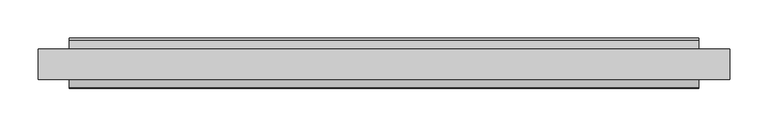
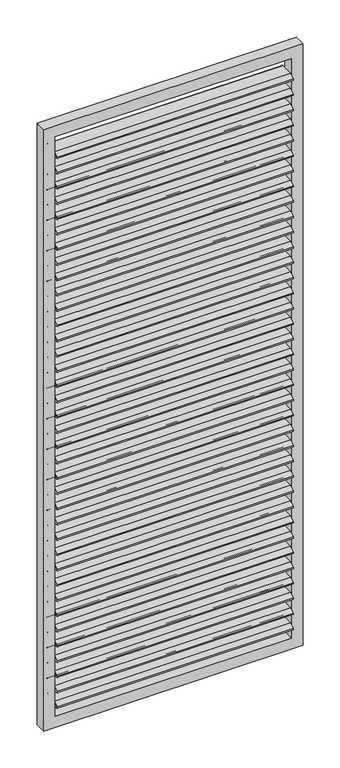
"""IFC4 building model written with IfcOpenShell, lengths in millimetres: proxy geometry."""

from ifc_helpers import new_model, si_unit, point, frame, frame_2d, origin, place, context, project, spatial, polyline, circle_curve, trimmed, segment, composite_curve, outline, extrude, source, transform, mapped, element, save


def generic_models_7d814d77(model_context):
    return source(origin(), model_context, "Body", "SweptSolid", [
        extrude(outline(composite_curve([segment(trimmed(circle_curve(frame_2d((30.8660408, 2150.5314678)), 3.0), [point((30.8136836, 2153.5310109))], [point((32.5436195, 2148.0443551))], False, "CARTESIAN"), True, "CONTINUOUS"), segment(polyline([(32.5436195, 2148.0443551), (17.3218392, 2137.7771346)]), True, "CONTINUOUS"), segment(trimmed(circle_curve(frame_2d((15.6442605, 2140.2642473)), 3.0), [point((17.3218392, 2137.7771346))], [point((15.6966177, 2137.2647043))], False, "CARTESIAN"), True, "CONTINUOUS"), segment(polyline([(15.6966177, 2137.2647043), (-28.3625539, 2136.4956486)]), True, "CONTINUOUS"), segment(trimmed(circle_curve(frame_2d((-28.4149111, 2139.4951916)), 3.0), [point((-28.3625539, 2136.4956486))], [point((-30.0924898, 2141.9823044))], False, "CARTESIAN"), True, "CONTINUOUS"), segment(polyline([(-30.0924898, 2141.9823044), (-14.1339931, 2152.7464463), (30.8136836, 2153.5310109)]), True, "CONTINUOUS")], self_intersect=False)), frame((-410.0, 0.0, 0.0), z_axis=(1.0, 0.0, 0.0), x_axis=(0.0, 1.0, 0.0)), (0.0, 0.0, 1.0), 820.0),
        extrude(outline(composite_curve([segment(trimmed(circle_curve(frame_2d((30.8660408, 2094.5594695)), 3.0), [point((30.8136836, 2097.5590126))], [point((32.5436195, 2092.0723568))], False, "CARTESIAN"), True, "CONTINUOUS"), segment(polyline([(32.5436195, 2092.0723568), (17.3218392, 2081.8051364)]), True, "CONTINUOUS"), segment(trimmed(circle_curve(frame_2d((15.6442605, 2084.2922491)), 3.0), [point((17.3218392, 2081.8051364))], [point((15.6966177, 2081.292706))], False, "CARTESIAN"), True, "CONTINUOUS"), segment(polyline([(15.6966177, 2081.292706), (-28.3625539, 2080.5236503)]), True, "CONTINUOUS"), segment(trimmed(circle_curve(frame_2d((-28.4149111, 2083.5231934)), 3.0), [point((-28.3625539, 2080.5236503))], [point((-30.0924898, 2086.0103061))], False, "CARTESIAN"), True, "CONTINUOUS"), segment(polyline([(-30.0924898, 2086.0103061), (-14.1339931, 2096.774448), (30.8136836, 2097.5590126)]), True, "CONTINUOUS")], self_intersect=False)), frame((-410.0, 0.0, 0.0), z_axis=(1.0, 0.0, 0.0), x_axis=(0.0, 1.0, 0.0)), (0.0, 0.0, 1.0), 820.0),
        extrude(outline(composite_curve([segment(trimmed(circle_curve(frame_2d((30.8660408, 2038.5874713)), 3.0), [point((30.8136836, 2041.5870144))], [point((32.5436195, 2036.1003586))], False, "CARTESIAN"), True, "CONTINUOUS"), segment(polyline([(32.5436195, 2036.1003586), (17.3218392, 2025.8331381)]), True, "CONTINUOUS"), segment(trimmed(circle_curve(frame_2d((15.6442605, 2028.3202508)), 3.0), [point((17.3218392, 2025.8331381))], [point((15.6966177, 2025.3207077))], False, "CARTESIAN"), True, "CONTINUOUS"), segment(polyline([(15.6966177, 2025.3207077), (-28.3625539, 2024.551652)]), True, "CONTINUOUS"), segment(trimmed(circle_curve(frame_2d((-28.4149111, 2027.5511951)), 3.0), [point((-28.3625539, 2024.551652))], [point((-30.0924898, 2030.0383078))], False, "CARTESIAN"), True, "CONTINUOUS"), segment(polyline([(-30.0924898, 2030.0383078), (-14.1339931, 2040.8024497), (30.8136836, 2041.5870144)]), True, "CONTINUOUS")], self_intersect=False)), frame((-410.0, 0.0, 0.0), z_axis=(1.0, 0.0, 0.0), x_axis=(0.0, 1.0, 0.0)), (0.0, 0.0, 1.0), 820.0),
        extrude(outline(composite_curve([segment(trimmed(circle_curve(frame_2d((30.8660408, 1982.615473)), 3.0), [point((30.8136836, 1985.6150161))], [point((32.5436195, 1980.1283603))], False, "CARTESIAN"), True, "CONTINUOUS"), segment(polyline([(32.5436195, 1980.1283603), (17.3218392, 1969.8611398)]), True, "CONTINUOUS"), segment(trimmed(circle_curve(frame_2d((15.6442605, 1972.3482526)), 3.0), [point((17.3218392, 1969.8611398))], [point((15.6966177, 1969.3487095))], False, "CARTESIAN"), True, "CONTINUOUS"), segment(polyline([(15.6966177, 1969.3487095), (-28.3625539, 1968.5796538)]), True, "CONTINUOUS"), segment(trimmed(circle_curve(frame_2d((-28.4149111, 1971.5791969)), 3.0), [point((-28.3625539, 1968.5796538))], [point((-30.0924898, 1974.0663096))], False, "CARTESIAN"), True, "CONTINUOUS"), segment(polyline([(-30.0924898, 1974.0663096), (-14.1339931, 1984.8304515), (30.8136836, 1985.6150161)]), True, "CONTINUOUS")], self_intersect=False)), frame((-410.0, 0.0, 0.0), z_axis=(1.0, 0.0, 0.0), x_axis=(0.0, 1.0, 0.0)), (0.0, 0.0, 1.0), 820.0),
        extrude(outline(composite_curve([segment(trimmed(circle_curve(frame_2d((30.8660408, 1926.6434747)), 3.0), [point((30.8136836, 1929.6430178))], [point((32.5436195, 1924.156362))], False, "CARTESIAN"), True, "CONTINUOUS"), segment(polyline([(32.5436195, 1924.156362), (17.3218392, 1913.8891416)]), True, "CONTINUOUS"), segment(trimmed(circle_curve(frame_2d((15.6442605, 1916.3762543)), 3.0), [point((17.3218392, 1913.8891416))], [point((15.6966177, 1913.3767112))], False, "CARTESIAN"), True, "CONTINUOUS"), segment(polyline([(15.6966177, 1913.3767112), (-28.3625539, 1912.6076555)]), True, "CONTINUOUS"), segment(trimmed(circle_curve(frame_2d((-28.4149111, 1915.6071986)), 3.0), [point((-28.3625539, 1912.6076555))], [point((-30.0924898, 1918.0943113))], False, "CARTESIAN"), True, "CONTINUOUS"), segment(polyline([(-30.0924898, 1918.0943113), (-14.1339931, 1928.8584532), (30.8136836, 1929.6430178)]), True, "CONTINUOUS")], self_intersect=False)), frame((-410.0, 0.0, 0.0), z_axis=(1.0, 0.0, 0.0), x_axis=(0.0, 1.0, 0.0)), (0.0, 0.0, 1.0), 820.0),
        extrude(outline(composite_curve([segment(trimmed(circle_curve(frame_2d((30.8660408, 1870.6714765)), 3.0), [point((30.8136836, 1873.6710196))], [point((32.5436195, 1868.1843638))], False, "CARTESIAN"), True, "CONTINUOUS"), segment(polyline([(32.5436195, 1868.1843638), (17.3218392, 1857.9171433)]), True, "CONTINUOUS"), segment(trimmed(circle_curve(frame_2d((15.6442605, 1860.404256)), 3.0), [point((17.3218392, 1857.9171433))], [point((15.6966177, 1857.404713))], False, "CARTESIAN"), True, "CONTINUOUS"), segment(polyline([(15.6966177, 1857.404713), (-28.3625539, 1856.6356573)]), True, "CONTINUOUS"), segment(trimmed(circle_curve(frame_2d((-28.4149111, 1859.6352003)), 3.0), [point((-28.3625539, 1856.6356573))], [point((-30.0924898, 1862.1223131))], False, "CARTESIAN"), True, "CONTINUOUS"), segment(polyline([(-30.0924898, 1862.1223131), (-14.1339931, 1872.886455), (30.8136836, 1873.6710196)]), True, "CONTINUOUS")], self_intersect=False)), frame((-410.0, 0.0, 0.0), z_axis=(1.0, 0.0, 0.0), x_axis=(0.0, 1.0, 0.0)), (0.0, 0.0, 1.0), 820.0),
        extrude(outline(composite_curve([segment(trimmed(circle_curve(frame_2d((30.8660408, 1814.6994782)), 3.0), [point((30.8136836, 1817.6990213))], [point((32.5436195, 1812.2123655))], False, "CARTESIAN"), True, "CONTINUOUS"), segment(polyline([(32.5436195, 1812.2123655), (17.3218392, 1801.9451451)]), True, "CONTINUOUS"), segment(trimmed(circle_curve(frame_2d((15.6442605, 1804.4322578)), 3.0), [point((17.3218392, 1801.9451451))], [point((15.6966177, 1801.4327147))], False, "CARTESIAN"), True, "CONTINUOUS"), segment(polyline([(15.6966177, 1801.4327147), (-28.3625539, 1800.663659)]), True, "CONTINUOUS"), segment(trimmed(circle_curve(frame_2d((-28.4149111, 1803.6632021)), 3.0), [point((-28.3625539, 1800.663659))], [point((-30.0924898, 1806.1503148))], False, "CARTESIAN"), True, "CONTINUOUS"), segment(polyline([(-30.0924898, 1806.1503148), (-14.1339931, 1816.9144567), (30.8136836, 1817.6990213)]), True, "CONTINUOUS")], self_intersect=False)), frame((-410.0, 0.0, 0.0), z_axis=(1.0, 0.0, 0.0), x_axis=(0.0, 1.0, 0.0)), (0.0, 0.0, 1.0), 820.0),
        extrude(outline(composite_curve([segment(trimmed(circle_curve(frame_2d((30.8660408, 1758.72748)), 3.0), [point((30.8136836, 1761.727023))], [point((32.5436195, 1756.2403672))], False, "CARTESIAN"), True, "CONTINUOUS"), segment(polyline([(32.5436195, 1756.2403672), (17.3218392, 1745.9731468)]), True, "CONTINUOUS"), segment(trimmed(circle_curve(frame_2d((15.6442605, 1748.4602595)), 3.0), [point((17.3218392, 1745.9731468))], [point((15.6966177, 1745.4607164))], False, "CARTESIAN"), True, "CONTINUOUS"), segment(polyline([(15.6966177, 1745.4607164), (-28.3625539, 1744.6916607)]), True, "CONTINUOUS"), segment(trimmed(circle_curve(frame_2d((-28.4149111, 1747.6912038)), 3.0), [point((-28.3625539, 1744.6916607))], [point((-30.0924898, 1750.1783165))], False, "CARTESIAN"), True, "CONTINUOUS"), segment(polyline([(-30.0924898, 1750.1783165), (-14.1339931, 1760.9424584), (30.8136836, 1761.727023)]), True, "CONTINUOUS")], self_intersect=False)), frame((-410.0, 0.0, 0.0), z_axis=(1.0, 0.0, 0.0), x_axis=(0.0, 1.0, 0.0)), (0.0, 0.0, 1.0), 820.0),
        extrude(outline(composite_curve([segment(trimmed(circle_curve(frame_2d((30.8660408, 1702.7554817)), 3.0), [point((30.8136836, 1705.7550248))], [point((32.5436195, 1700.268369))], False, "CARTESIAN"), True, "CONTINUOUS"), segment(polyline([(32.5436195, 1700.268369), (17.3218392, 1690.0011485)]), True, "CONTINUOUS"), segment(trimmed(circle_curve(frame_2d((15.6442605, 1692.4882613)), 3.0), [point((17.3218392, 1690.0011485))], [point((15.6966177, 1689.4887182))], False, "CARTESIAN"), True, "CONTINUOUS"), segment(polyline([(15.6966177, 1689.4887182), (-28.3625539, 1688.7196625)]), True, "CONTINUOUS"), segment(trimmed(circle_curve(frame_2d((-28.4149111, 1691.7192056)), 3.0), [point((-28.3625539, 1688.7196625))], [point((-30.0924898, 1694.2063183))], False, "CARTESIAN"), True, "CONTINUOUS"), segment(polyline([(-30.0924898, 1694.2063183), (-14.1339931, 1704.9704602), (30.8136836, 1705.7550248)]), True, "CONTINUOUS")], self_intersect=False)), frame((-410.0, 0.0, 0.0), z_axis=(1.0, 0.0, 0.0), x_axis=(0.0, 1.0, 0.0)), (0.0, 0.0, 1.0), 820.0),
        extrude(outline(composite_curve([segment(trimmed(circle_curve(frame_2d((30.8660408, 1646.7834834)), 3.0), [point((30.8136836, 1649.7830265))], [point((32.5436195, 1644.2963707))], False, "CARTESIAN"), True, "CONTINUOUS"), segment(polyline([(32.5436195, 1644.2963707), (17.3218392, 1634.0291503)]), True, "CONTINUOUS"), segment(trimmed(circle_curve(frame_2d((15.6442605, 1636.516263)), 3.0), [point((17.3218392, 1634.0291503))], [point((15.6966177, 1633.5167199))], False, "CARTESIAN"), True, "CONTINUOUS"), segment(polyline([(15.6966177, 1633.5167199), (-28.3625539, 1632.7476642)]), True, "CONTINUOUS"), segment(trimmed(circle_curve(frame_2d((-28.4149111, 1635.7472073)), 3.0), [point((-28.3625539, 1632.7476642))], [point((-30.0924898, 1638.23432))], False, "CARTESIAN"), True, "CONTINUOUS"), segment(polyline([(-30.0924898, 1638.23432), (-14.1339931, 1648.9984619), (30.8136836, 1649.7830265)]), True, "CONTINUOUS")], self_intersect=False)), frame((-410.0, 0.0, 0.0), z_axis=(1.0, 0.0, 0.0), x_axis=(0.0, 1.0, 0.0)), (0.0, 0.0, 1.0), 820.0),
        extrude(outline(composite_curve([segment(trimmed(circle_curve(frame_2d((30.8660408, 1590.8114852)), 3.0), [point((30.8136836, 1593.8110283))], [point((32.5436195, 1588.3243725))], False, "CARTESIAN"), True, "CONTINUOUS"), segment(polyline([(32.5436195, 1588.3243725), (17.3218392, 1578.057152)]), True, "CONTINUOUS"), segment(trimmed(circle_curve(frame_2d((15.6442605, 1580.5442647)), 3.0), [point((17.3218392, 1578.057152))], [point((15.6966177, 1577.5447216))], False, "CARTESIAN"), True, "CONTINUOUS"), segment(polyline([(15.6966177, 1577.5447216), (-28.3625539, 1576.7756659)]), True, "CONTINUOUS"), segment(trimmed(circle_curve(frame_2d((-28.4149111, 1579.775209)), 3.0), [point((-28.3625539, 1576.7756659))], [point((-30.0924898, 1582.2623218))], False, "CARTESIAN"), True, "CONTINUOUS"), segment(polyline([(-30.0924898, 1582.2623218), (-14.1339931, 1593.0264636), (30.8136836, 1593.8110283)]), True, "CONTINUOUS")], self_intersect=False)), frame((-410.0, 0.0, 0.0), z_axis=(1.0, 0.0, 0.0), x_axis=(0.0, 1.0, 0.0)), (0.0, 0.0, 1.0), 820.0),
        extrude(outline(composite_curve([segment(trimmed(circle_curve(frame_2d((30.8660408, 1534.8394869)), 3.0), [point((30.8136836, 1537.83903))], [point((32.5436195, 1532.3523742))], False, "CARTESIAN"), True, "CONTINUOUS"), segment(polyline([(32.5436195, 1532.3523742), (17.3218392, 1522.0851538)]), True, "CONTINUOUS"), segment(trimmed(circle_curve(frame_2d((15.6442605, 1524.5722665)), 3.0), [point((17.3218392, 1522.0851538))], [point((15.6966177, 1521.5727234))], False, "CARTESIAN"), True, "CONTINUOUS"), segment(polyline([(15.6966177, 1521.5727234), (-28.3625539, 1520.8036677)]), True, "CONTINUOUS"), segment(trimmed(circle_curve(frame_2d((-28.4149111, 1523.8032108)), 3.0), [point((-28.3625539, 1520.8036677))], [point((-30.0924898, 1526.2903235))], False, "CARTESIAN"), True, "CONTINUOUS"), segment(polyline([(-30.0924898, 1526.2903235), (-14.1339931, 1537.0544654), (30.8136836, 1537.83903)]), True, "CONTINUOUS")], self_intersect=False)), frame((-410.0, 0.0, 0.0), z_axis=(1.0, 0.0, 0.0), x_axis=(0.0, 1.0, 0.0)), (0.0, 0.0, 1.0), 820.0),
        extrude(outline(composite_curve([segment(trimmed(circle_curve(frame_2d((30.8660408, 1478.8674887)), 3.0), [point((30.8136836, 1481.8670317))], [point((32.5436195, 1476.3803759))], False, "CARTESIAN"), True, "CONTINUOUS"), segment(polyline([(32.5436195, 1476.3803759), (17.3218392, 1466.1131555)]), True, "CONTINUOUS"), segment(trimmed(circle_curve(frame_2d((15.6442605, 1468.6002682)), 3.0), [point((17.3218392, 1466.1131555))], [point((15.6966177, 1465.6007251))], False, "CARTESIAN"), True, "CONTINUOUS"), segment(polyline([(15.6966177, 1465.6007251), (-28.3625539, 1464.8316694)]), True, "CONTINUOUS"), segment(trimmed(circle_curve(frame_2d((-28.4149111, 1467.8312125)), 3.0), [point((-28.3625539, 1464.8316694))], [point((-30.0924898, 1470.3183252))], False, "CARTESIAN"), True, "CONTINUOUS"), segment(polyline([(-30.0924898, 1470.3183252), (-14.1339931, 1481.0824671), (30.8136836, 1481.8670317)]), True, "CONTINUOUS")], self_intersect=False)), frame((-410.0, 0.0, 0.0), z_axis=(1.0, 0.0, 0.0), x_axis=(0.0, 1.0, 0.0)), (0.0, 0.0, 1.0), 820.0),
        extrude(outline(composite_curve([segment(trimmed(circle_curve(frame_2d((30.8660408, 1422.8954904)), 3.0), [point((30.8136836, 1425.8950335))], [point((32.5436195, 1420.4083777))], False, "CARTESIAN"), True, "CONTINUOUS"), segment(polyline([(32.5436195, 1420.4083777), (17.3218392, 1410.1411572)]), True, "CONTINUOUS"), segment(trimmed(circle_curve(frame_2d((15.6442605, 1412.62827)), 3.0), [point((17.3218392, 1410.1411572))], [point((15.6966177, 1409.6287269))], False, "CARTESIAN"), True, "CONTINUOUS"), segment(polyline([(15.6966177, 1409.6287269), (-28.3625539, 1408.8596712)]), True, "CONTINUOUS"), segment(trimmed(circle_curve(frame_2d((-28.4149111, 1411.8592143)), 3.0), [point((-28.3625539, 1408.8596712))], [point((-30.0924898, 1414.346327))], False, "CARTESIAN"), True, "CONTINUOUS"), segment(polyline([(-30.0924898, 1414.346327), (-14.1339931, 1425.1104689), (30.8136836, 1425.8950335)]), True, "CONTINUOUS")], self_intersect=False)), frame((-410.0, 0.0, 0.0), z_axis=(1.0, 0.0, 0.0), x_axis=(0.0, 1.0, 0.0)), (0.0, 0.0, 1.0), 820.0),
        extrude(outline(composite_curve([segment(trimmed(circle_curve(frame_2d((30.8660408, 1366.9234921)), 3.0), [point((30.8136836, 1369.9230352))], [point((32.5436195, 1364.4363794))], False, "CARTESIAN"), True, "CONTINUOUS"), segment(polyline([(32.5436195, 1364.4363794), (17.3218392, 1354.169159)]), True, "CONTINUOUS"), segment(trimmed(circle_curve(frame_2d((15.6442605, 1356.6562717)), 3.0), [point((17.3218392, 1354.169159))], [point((15.6966177, 1353.6567286))], False, "CARTESIAN"), True, "CONTINUOUS"), segment(polyline([(15.6966177, 1353.6567286), (-28.3625539, 1352.8876729)]), True, "CONTINUOUS"), segment(trimmed(circle_curve(frame_2d((-28.4149111, 1355.887216)), 3.0), [point((-28.3625539, 1352.8876729))], [point((-30.0924898, 1358.3743287))], False, "CARTESIAN"), True, "CONTINUOUS"), segment(polyline([(-30.0924898, 1358.3743287), (-14.1339931, 1369.1384706), (30.8136836, 1369.9230352)]), True, "CONTINUOUS")], self_intersect=False)), frame((-410.0, 0.0, 0.0), z_axis=(1.0, 0.0, 0.0), x_axis=(0.0, 1.0, 0.0)), (0.0, 0.0, 1.0), 820.0),
        extrude(outline(composite_curve([segment(trimmed(circle_curve(frame_2d((30.8660408, 1310.9514939)), 3.0), [point((30.8136836, 1313.951037))], [point((32.5436195, 1308.4643812))], False, "CARTESIAN"), True, "CONTINUOUS"), segment(polyline([(32.5436195, 1308.4643812), (17.3218392, 1298.1971607)]), True, "CONTINUOUS"), segment(trimmed(circle_curve(frame_2d((15.6442605, 1300.6842734)), 3.0), [point((17.3218392, 1298.1971607))], [point((15.6966177, 1297.6847303))], False, "CARTESIAN"), True, "CONTINUOUS"), segment(polyline([(15.6966177, 1297.6847303), (-28.3625539, 1296.9156746)]), True, "CONTINUOUS"), segment(trimmed(circle_curve(frame_2d((-28.4149111, 1299.9152177)), 3.0), [point((-28.3625539, 1296.9156746))], [point((-30.0924898, 1302.4023304))], False, "CARTESIAN"), True, "CONTINUOUS"), segment(polyline([(-30.0924898, 1302.4023304), (-14.1339931, 1313.1664723), (30.8136836, 1313.951037)]), True, "CONTINUOUS")], self_intersect=False)), frame((-410.0, 0.0, 0.0), z_axis=(1.0, 0.0, 0.0), x_axis=(0.0, 1.0, 0.0)), (0.0, 0.0, 1.0), 820.0),
        extrude(outline(composite_curve([segment(trimmed(circle_curve(frame_2d((30.8660408, 1254.9794956)), 3.0), [point((30.8136836, 1257.9790387))], [point((32.5436195, 1252.4923829))], False, "CARTESIAN"), True, "CONTINUOUS"), segment(polyline([(32.5436195, 1252.4923829), (17.3218392, 1242.2251625)]), True, "CONTINUOUS"), segment(trimmed(circle_curve(frame_2d((15.6442605, 1244.7122752)), 3.0), [point((17.3218392, 1242.2251625))], [point((15.6966177, 1241.7127321))], False, "CARTESIAN"), True, "CONTINUOUS"), segment(polyline([(15.6966177, 1241.7127321), (-28.3625539, 1240.9436764)]), True, "CONTINUOUS"), segment(trimmed(circle_curve(frame_2d((-28.4149111, 1243.9432195)), 3.0), [point((-28.3625539, 1240.9436764))], [point((-30.0924898, 1246.4303322))], False, "CARTESIAN"), True, "CONTINUOUS"), segment(polyline([(-30.0924898, 1246.4303322), (-14.1339931, 1257.1944741), (30.8136836, 1257.9790387)]), True, "CONTINUOUS")], self_intersect=False)), frame((-410.0, 0.0, 0.0), z_axis=(1.0, 0.0, 0.0), x_axis=(0.0, 1.0, 0.0)), (0.0, 0.0, 1.0), 820.0),
        extrude(outline(composite_curve([segment(trimmed(circle_curve(frame_2d((30.8660408, 1199.0074974)), 3.0), [point((30.8136836, 1202.0070404))], [point((32.5436195, 1196.5203846))], False, "CARTESIAN"), True, "CONTINUOUS"), segment(polyline([(32.5436195, 1196.5203846), (17.3218392, 1186.2531642)]), True, "CONTINUOUS"), segment(trimmed(circle_curve(frame_2d((15.6442605, 1188.7402769)), 3.0), [point((17.3218392, 1186.2531642))], [point((15.6966177, 1185.7407338))], False, "CARTESIAN"), True, "CONTINUOUS"), segment(polyline([(15.6966177, 1185.7407338), (-28.3625539, 1184.9716781)]), True, "CONTINUOUS"), segment(trimmed(circle_curve(frame_2d((-28.4149111, 1187.9712212)), 3.0), [point((-28.3625539, 1184.9716781))], [point((-30.0924898, 1190.4583339))], False, "CARTESIAN"), True, "CONTINUOUS"), segment(polyline([(-30.0924898, 1190.4583339), (-14.1339931, 1201.2224758), (30.8136836, 1202.0070404)]), True, "CONTINUOUS")], self_intersect=False)), frame((-410.0, 0.0, 0.0), z_axis=(1.0, 0.0, 0.0), x_axis=(0.0, 1.0, 0.0)), (0.0, 0.0, 1.0), 820.0),
        extrude(outline(composite_curve([segment(trimmed(circle_curve(frame_2d((30.8660408, 1143.0354991)), 3.0), [point((30.8136836, 1146.0350422))], [point((32.5436195, 1140.5483864))], False, "CARTESIAN"), True, "CONTINUOUS"), segment(polyline([(32.5436195, 1140.5483864), (17.3218392, 1130.2811659)]), True, "CONTINUOUS"), segment(trimmed(circle_curve(frame_2d((15.6442605, 1132.7682786)), 3.0), [point((17.3218392, 1130.2811659))], [point((15.6966177, 1129.7687356))], False, "CARTESIAN"), True, "CONTINUOUS"), segment(polyline([(15.6966177, 1129.7687356), (-28.3625539, 1128.9996799)]), True, "CONTINUOUS"), segment(trimmed(circle_curve(frame_2d((-28.4149111, 1131.9992229)), 3.0), [point((-28.3625539, 1128.9996799))], [point((-30.0924898, 1134.4863357))], False, "CARTESIAN"), True, "CONTINUOUS"), segment(polyline([(-30.0924898, 1134.4863357), (-14.1339931, 1145.2504776), (30.8136836, 1146.0350422)]), True, "CONTINUOUS")], self_intersect=False)), frame((-410.0, 0.0, 0.0), z_axis=(1.0, 0.0, 0.0), x_axis=(0.0, 1.0, 0.0)), (0.0, 0.0, 1.0), 820.0),
        extrude(outline(composite_curve([segment(trimmed(circle_curve(frame_2d((30.8660408, 1087.0635008)), 3.0), [point((30.8136836, 1090.0630439))], [point((32.5436195, 1084.5763881))], False, "CARTESIAN"), True, "CONTINUOUS"), segment(polyline([(32.5436195, 1084.5763881), (17.3218392, 1074.3091677)]), True, "CONTINUOUS"), segment(trimmed(circle_curve(frame_2d((15.6442605, 1076.7962804)), 3.0), [point((17.3218392, 1074.3091677))], [point((15.6966177, 1073.7967373))], False, "CARTESIAN"), True, "CONTINUOUS"), segment(polyline([(15.6966177, 1073.7967373), (-28.3625539, 1073.0276816)]), True, "CONTINUOUS"), segment(trimmed(circle_curve(frame_2d((-28.4149111, 1076.0272247)), 3.0), [point((-28.3625539, 1073.0276816))], [point((-30.0924898, 1078.5143374))], False, "CARTESIAN"), True, "CONTINUOUS"), segment(polyline([(-30.0924898, 1078.5143374), (-14.1339931, 1089.2784793), (30.8136836, 1090.0630439)]), True, "CONTINUOUS")], self_intersect=False)), frame((-410.0, 0.0, 0.0), z_axis=(1.0, 0.0, 0.0), x_axis=(0.0, 1.0, 0.0)), (0.0, 0.0, 1.0), 820.0),
        extrude(outline(composite_curve([segment(trimmed(circle_curve(frame_2d((30.8660408, 1031.0915026)), 3.0), [point((30.8136836, 1034.0910457))], [point((32.5436195, 1028.6043898))], False, "CARTESIAN"), True, "CONTINUOUS"), segment(polyline([(32.5436195, 1028.6043898), (17.3218392, 1018.3371694)]), True, "CONTINUOUS"), segment(trimmed(circle_curve(frame_2d((15.6442605, 1020.8242821)), 3.0), [point((17.3218392, 1018.3371694))], [point((15.6966177, 1017.824739))], False, "CARTESIAN"), True, "CONTINUOUS"), segment(polyline([(15.6966177, 1017.824739), (-28.3625539, 1017.0556833)]), True, "CONTINUOUS"), segment(trimmed(circle_curve(frame_2d((-28.4149111, 1020.0552264)), 3.0), [point((-28.3625539, 1017.0556833))], [point((-30.0924898, 1022.5423391))], False, "CARTESIAN"), True, "CONTINUOUS"), segment(polyline([(-30.0924898, 1022.5423391), (-14.1339931, 1033.306481), (30.8136836, 1034.0910457)]), True, "CONTINUOUS")], self_intersect=False)), frame((-410.0, 0.0, 0.0), z_axis=(1.0, 0.0, 0.0), x_axis=(0.0, 1.0, 0.0)), (0.0, 0.0, 1.0), 820.0),
        extrude(outline(composite_curve([segment(trimmed(circle_curve(frame_2d((30.8660408, 975.1195043)), 3.0), [point((30.8136836, 978.1190474))], [point((32.5436195, 972.6323916))], False, "CARTESIAN"), True, "CONTINUOUS"), segment(polyline([(32.5436195, 972.6323916), (17.3218392, 962.3651711)]), True, "CONTINUOUS"), segment(trimmed(circle_curve(frame_2d((15.6442605, 964.8522839)), 3.0), [point((17.3218392, 962.3651711))], [point((15.6966177, 961.8527408))], False, "CARTESIAN"), True, "CONTINUOUS"), segment(polyline([(15.6966177, 961.8527408), (-28.3625539, 961.0836851)]), True, "CONTINUOUS"), segment(trimmed(circle_curve(frame_2d((-28.4149111, 964.0832282)), 3.0), [point((-28.3625539, 961.0836851))], [point((-30.0924898, 966.5703409))], False, "CARTESIAN"), True, "CONTINUOUS"), segment(polyline([(-30.0924898, 966.5703409), (-14.1339931, 977.3344828), (30.8136836, 978.1190474)]), True, "CONTINUOUS")], self_intersect=False)), frame((-410.0, 0.0, 0.0), z_axis=(1.0, 0.0, 0.0), x_axis=(0.0, 1.0, 0.0)), (0.0, 0.0, 1.0), 820.0),
        extrude(outline(composite_curve([segment(trimmed(circle_curve(frame_2d((30.8660408, 919.147506)), 3.0), [point((30.8136836, 922.1470491))], [point((32.5436195, 916.6603933))], False, "CARTESIAN"), True, "CONTINUOUS"), segment(polyline([(32.5436195, 916.6603933), (17.3218392, 906.3931729)]), True, "CONTINUOUS"), segment(trimmed(circle_curve(frame_2d((15.6442605, 908.8802856)), 3.0), [point((17.3218392, 906.3931729))], [point((15.6966177, 905.8807425))], False, "CARTESIAN"), True, "CONTINUOUS"), segment(polyline([(15.6966177, 905.8807425), (-28.3625539, 905.1116868)]), True, "CONTINUOUS"), segment(trimmed(circle_curve(frame_2d((-28.4149111, 908.1112299)), 3.0), [point((-28.3625539, 905.1116868))], [point((-30.0924898, 910.5983426))], False, "CARTESIAN"), True, "CONTINUOUS"), segment(polyline([(-30.0924898, 910.5983426), (-14.1339931, 921.3624845), (30.8136836, 922.1470491)]), True, "CONTINUOUS")], self_intersect=False)), frame((-410.0, 0.0, 0.0), z_axis=(1.0, 0.0, 0.0), x_axis=(0.0, 1.0, 0.0)), (0.0, 0.0, 1.0), 820.0),
        extrude(outline(composite_curve([segment(trimmed(circle_curve(frame_2d((30.8660408, 863.1755078)), 3.0), [point((30.8136836, 866.1750509))], [point((32.5436195, 860.6883951))], False, "CARTESIAN"), True, "CONTINUOUS"), segment(polyline([(32.5436195, 860.6883951), (17.3218392, 850.4211746)]), True, "CONTINUOUS"), segment(trimmed(circle_curve(frame_2d((15.6442605, 852.9082873)), 3.0), [point((17.3218392, 850.4211746))], [point((15.6966177, 849.9087443))], False, "CARTESIAN"), True, "CONTINUOUS"), segment(polyline([(15.6966177, 849.9087443), (-28.3625539, 849.1396886)]), True, "CONTINUOUS"), segment(trimmed(circle_curve(frame_2d((-28.4149111, 852.1392316)), 3.0), [point((-28.3625539, 849.1396886))], [point((-30.0924898, 854.6263444))], False, "CARTESIAN"), True, "CONTINUOUS"), segment(polyline([(-30.0924898, 854.6263444), (-14.1339931, 865.3904863), (30.8136836, 866.1750509)]), True, "CONTINUOUS")], self_intersect=False)), frame((-410.0, 0.0, 0.0), z_axis=(1.0, 0.0, 0.0), x_axis=(0.0, 1.0, 0.0)), (0.0, 0.0, 1.0), 820.0),
        extrude(outline(composite_curve([segment(trimmed(circle_curve(frame_2d((30.8660408, 807.2035095)), 3.0), [point((30.8136836, 810.2030526))], [point((32.5436195, 804.7163968))], False, "CARTESIAN"), True, "CONTINUOUS"), segment(polyline([(32.5436195, 804.7163968), (17.3218392, 794.4491764)]), True, "CONTINUOUS"), segment(trimmed(circle_curve(frame_2d((15.6442605, 796.9362891)), 3.0), [point((17.3218392, 794.4491764))], [point((15.6966177, 793.936746))], False, "CARTESIAN"), True, "CONTINUOUS"), segment(polyline([(15.6966177, 793.936746), (-28.3625539, 793.1676903)]), True, "CONTINUOUS"), segment(trimmed(circle_curve(frame_2d((-28.4149111, 796.1672334)), 3.0), [point((-28.3625539, 793.1676903))], [point((-30.0924898, 798.6543461))], False, "CARTESIAN"), True, "CONTINUOUS"), segment(polyline([(-30.0924898, 798.6543461), (-14.1339931, 809.418488), (30.8136836, 810.2030526)]), True, "CONTINUOUS")], self_intersect=False)), frame((-410.0, 0.0, 0.0), z_axis=(1.0, 0.0, 0.0), x_axis=(0.0, 1.0, 0.0)), (0.0, 0.0, 1.0), 820.0),
        extrude(outline(composite_curve([segment(trimmed(circle_curve(frame_2d((30.8660408, 751.2315113)), 3.0), [point((30.8136836, 754.2310543))], [point((32.5436195, 748.7443985))], False, "CARTESIAN"), True, "CONTINUOUS"), segment(polyline([(32.5436195, 748.7443985), (17.3218392, 738.4771781)]), True, "CONTINUOUS"), segment(trimmed(circle_curve(frame_2d((15.6442605, 740.9642908)), 3.0), [point((17.3218392, 738.4771781))], [point((15.6966177, 737.9647477))], False, "CARTESIAN"), True, "CONTINUOUS"), segment(polyline([(15.6966177, 737.9647477), (-28.3625539, 737.195692)]), True, "CONTINUOUS"), segment(trimmed(circle_curve(frame_2d((-28.4149111, 740.1952351)), 3.0), [point((-28.3625539, 737.195692))], [point((-30.0924898, 742.6823478))], False, "CARTESIAN"), True, "CONTINUOUS"), segment(polyline([(-30.0924898, 742.6823478), (-14.1339931, 753.4464897), (30.8136836, 754.2310543)]), True, "CONTINUOUS")], self_intersect=False)), frame((-410.0, 0.0, 0.0), z_axis=(1.0, 0.0, 0.0), x_axis=(0.0, 1.0, 0.0)), (0.0, 0.0, 1.0), 820.0),
        extrude(outline(composite_curve([segment(trimmed(circle_curve(frame_2d((30.8660408, 695.259513)), 3.0), [point((30.8136836, 698.2590561))], [point((32.5436195, 692.7724003))], False, "CARTESIAN"), True, "CONTINUOUS"), segment(polyline([(32.5436195, 692.7724003), (17.3218392, 682.5051798)]), True, "CONTINUOUS"), segment(trimmed(circle_curve(frame_2d((15.6442605, 684.9922926)), 3.0), [point((17.3218392, 682.5051798))], [point((15.6966177, 681.9927495))], False, "CARTESIAN"), True, "CONTINUOUS"), segment(polyline([(15.6966177, 681.9927495), (-28.3625539, 681.2236938)]), True, "CONTINUOUS"), segment(trimmed(circle_curve(frame_2d((-28.4149111, 684.2232369)), 3.0), [point((-28.3625539, 681.2236938))], [point((-30.0924898, 686.7103496))], False, "CARTESIAN"), True, "CONTINUOUS"), segment(polyline([(-30.0924898, 686.7103496), (-14.1339931, 697.4744915), (30.8136836, 698.2590561)]), True, "CONTINUOUS")], self_intersect=False)), frame((-410.0, 0.0, 0.0), z_axis=(1.0, 0.0, 0.0), x_axis=(0.0, 1.0, 0.0)), (0.0, 0.0, 1.0), 820.0),
        extrude(outline(composite_curve([segment(trimmed(circle_curve(frame_2d((30.8660408, 639.2875147)), 3.0), [point((30.8136836, 642.2870578))], [point((32.5436195, 636.800402))], False, "CARTESIAN"), True, "CONTINUOUS"), segment(polyline([(32.5436195, 636.800402), (17.3218392, 626.5331816)]), True, "CONTINUOUS"), segment(trimmed(circle_curve(frame_2d((15.6442605, 629.0202943)), 3.0), [point((17.3218392, 626.5331816))], [point((15.6966177, 626.0207512))], False, "CARTESIAN"), True, "CONTINUOUS"), segment(polyline([(15.6966177, 626.0207512), (-28.3625539, 625.2516955)]), True, "CONTINUOUS"), segment(trimmed(circle_curve(frame_2d((-28.4149111, 628.2512386)), 3.0), [point((-28.3625539, 625.2516955))], [point((-30.0924898, 630.7383513))], False, "CARTESIAN"), True, "CONTINUOUS"), segment(polyline([(-30.0924898, 630.7383513), (-14.1339931, 641.5024932), (30.8136836, 642.2870578)]), True, "CONTINUOUS")], self_intersect=False)), frame((-410.0, 0.0, 0.0), z_axis=(1.0, 0.0, 0.0), x_axis=(0.0, 1.0, 0.0)), (0.0, 0.0, 1.0), 820.0),
        extrude(outline(composite_curve([segment(trimmed(circle_curve(frame_2d((30.8660408, 583.3155165)), 3.0), [point((30.8136836, 586.3150596))], [point((32.5436195, 580.8284038))], False, "CARTESIAN"), True, "CONTINUOUS"), segment(polyline([(32.5436195, 580.8284038), (17.3218392, 570.5611833)]), True, "CONTINUOUS"), segment(trimmed(circle_curve(frame_2d((15.6442605, 573.048296)), 3.0), [point((17.3218392, 570.5611833))], [point((15.6966177, 570.0487529))], False, "CARTESIAN"), True, "CONTINUOUS"), segment(polyline([(15.6966177, 570.0487529), (-28.3625539, 569.2796972)]), True, "CONTINUOUS"), segment(trimmed(circle_curve(frame_2d((-28.4149111, 572.2792403)), 3.0), [point((-28.3625539, 569.2796972))], [point((-30.0924898, 574.766353))], False, "CARTESIAN"), True, "CONTINUOUS"), segment(polyline([(-30.0924898, 574.766353), (-14.1339931, 585.5304949), (30.8136836, 586.3150596)]), True, "CONTINUOUS")], self_intersect=False)), frame((-410.0, 0.0, 0.0), z_axis=(1.0, 0.0, 0.0), x_axis=(0.0, 1.0, 0.0)), (0.0, 0.0, 1.0), 820.0),
        extrude(outline(composite_curve([segment(trimmed(circle_curve(frame_2d((30.8660408, 527.3435182)), 3.0), [point((30.8136836, 530.3430613))], [point((32.5436195, 524.8564055))], False, "CARTESIAN"), True, "CONTINUOUS"), segment(polyline([(32.5436195, 524.8564055), (17.3218392, 514.5891851)]), True, "CONTINUOUS"), segment(trimmed(circle_curve(frame_2d((15.6442605, 517.0762978)), 3.0), [point((17.3218392, 514.5891851))], [point((15.6966177, 514.0767547))], False, "CARTESIAN"), True, "CONTINUOUS"), segment(polyline([(15.6966177, 514.0767547), (-28.3625539, 513.307699)]), True, "CONTINUOUS"), segment(trimmed(circle_curve(frame_2d((-28.4149111, 516.3072421)), 3.0), [point((-28.3625539, 513.307699))], [point((-30.0924898, 518.7943548))], False, "CARTESIAN"), True, "CONTINUOUS"), segment(polyline([(-30.0924898, 518.7943548), (-14.1339931, 529.5584967), (30.8136836, 530.3430613)]), True, "CONTINUOUS")], self_intersect=False)), frame((-410.0, 0.0, 0.0), z_axis=(1.0, 0.0, 0.0), x_axis=(0.0, 1.0, 0.0)), (0.0, 0.0, 1.0), 820.0),
        extrude(outline(composite_curve([segment(trimmed(circle_curve(frame_2d((30.8660408, 471.37152)), 3.0), [point((30.8136836, 474.371063))], [point((32.5436195, 468.8844072))], False, "CARTESIAN"), True, "CONTINUOUS"), segment(polyline([(32.5436195, 468.8844072), (17.3218392, 458.6171868)]), True, "CONTINUOUS"), segment(trimmed(circle_curve(frame_2d((15.6442605, 461.1042995)), 3.0), [point((17.3218392, 458.6171868))], [point((15.6966177, 458.1047564))], False, "CARTESIAN"), True, "CONTINUOUS"), segment(polyline([(15.6966177, 458.1047564), (-28.3625539, 457.3357007)]), True, "CONTINUOUS"), segment(trimmed(circle_curve(frame_2d((-28.4149111, 460.3352438)), 3.0), [point((-28.3625539, 457.3357007))], [point((-30.0924898, 462.8223565))], False, "CARTESIAN"), True, "CONTINUOUS"), segment(polyline([(-30.0924898, 462.8223565), (-14.1339931, 473.5864984), (30.8136836, 474.371063)]), True, "CONTINUOUS")], self_intersect=False)), frame((-410.0, 0.0, 0.0), z_axis=(1.0, 0.0, 0.0), x_axis=(0.0, 1.0, 0.0)), (0.0, 0.0, 1.0), 820.0),
        extrude(outline(composite_curve([segment(trimmed(circle_curve(frame_2d((30.8660408, 415.3995217)), 3.0), [point((30.8136836, 418.3990648))], [point((32.5436195, 412.912409))], False, "CARTESIAN"), True, "CONTINUOUS"), segment(polyline([(32.5436195, 412.912409), (17.3218392, 402.6451885)]), True, "CONTINUOUS"), segment(trimmed(circle_curve(frame_2d((15.6442605, 405.1323012)), 3.0), [point((17.3218392, 402.6451885))], [point((15.6966177, 402.1327582))], False, "CARTESIAN"), True, "CONTINUOUS"), segment(polyline([(15.6966177, 402.1327582), (-28.3625539, 401.3637025)]), True, "CONTINUOUS"), segment(trimmed(circle_curve(frame_2d((-28.4149111, 404.3632455)), 3.0), [point((-28.3625539, 401.3637025))], [point((-30.0924898, 406.8503583))], False, "CARTESIAN"), True, "CONTINUOUS"), segment(polyline([(-30.0924898, 406.8503583), (-14.1339931, 417.6145002), (30.8136836, 418.3990648)]), True, "CONTINUOUS")], self_intersect=False)), frame((-410.0, 0.0, 0.0), z_axis=(1.0, 0.0, 0.0), x_axis=(0.0, 1.0, 0.0)), (0.0, 0.0, 1.0), 820.0),
        extrude(outline(composite_curve([segment(trimmed(circle_curve(frame_2d((30.8660408, 359.4275234)), 3.0), [point((30.8136836, 362.4270665))], [point((32.5436195, 356.9404107))], False, "CARTESIAN"), True, "CONTINUOUS"), segment(polyline([(32.5436195, 356.9404107), (17.3218392, 346.6731903)]), True, "CONTINUOUS"), segment(trimmed(circle_curve(frame_2d((15.6442605, 349.160303)), 3.0), [point((17.3218392, 346.6731903))], [point((15.6966177, 346.1607599))], False, "CARTESIAN"), True, "CONTINUOUS"), segment(polyline([(15.6966177, 346.1607599), (-28.3625539, 345.3917042)]), True, "CONTINUOUS"), segment(trimmed(circle_curve(frame_2d((-28.4149111, 348.3912473)), 3.0), [point((-28.3625539, 345.3917042))], [point((-30.0924898, 350.87836))], False, "CARTESIAN"), True, "CONTINUOUS"), segment(polyline([(-30.0924898, 350.87836), (-14.1339931, 361.6425019), (30.8136836, 362.4270665)]), True, "CONTINUOUS")], self_intersect=False)), frame((-410.0, 0.0, 0.0), z_axis=(1.0, 0.0, 0.0), x_axis=(0.0, 1.0, 0.0)), (0.0, 0.0, 1.0), 820.0),
        extrude(outline(composite_curve([segment(trimmed(circle_curve(frame_2d((30.8660408, 303.4555252)), 3.0), [point((30.8136836, 306.4550683))], [point((32.5436195, 300.9684125))], False, "CARTESIAN"), True, "CONTINUOUS"), segment(polyline([(32.5436195, 300.9684125), (17.3218392, 290.701192)]), True, "CONTINUOUS"), segment(trimmed(circle_curve(frame_2d((15.6442605, 293.1883047)), 3.0), [point((17.3218392, 290.701192))], [point((15.6966177, 290.1887616))], False, "CARTESIAN"), True, "CONTINUOUS"), segment(polyline([(15.6966177, 290.1887616), (-28.3625539, 289.4197059)]), True, "CONTINUOUS"), segment(trimmed(circle_curve(frame_2d((-28.4149111, 292.419249)), 3.0), [point((-28.3625539, 289.4197059))], [point((-30.0924898, 294.9063617))], False, "CARTESIAN"), True, "CONTINUOUS"), segment(polyline([(-30.0924898, 294.9063617), (-14.1339931, 305.6705036), (30.8136836, 306.4550683)]), True, "CONTINUOUS")], self_intersect=False)), frame((-410.0, 0.0, 0.0), z_axis=(1.0, 0.0, 0.0), x_axis=(0.0, 1.0, 0.0)), (0.0, 0.0, 1.0), 820.0),
        extrude(outline(composite_curve([segment(trimmed(circle_curve(frame_2d((30.8660408, 247.4835269)), 3.0), [point((30.8136836, 250.48307))], [point((32.5436195, 244.9964142))], False, "CARTESIAN"), True, "CONTINUOUS"), segment(polyline([(32.5436195, 244.9964142), (17.3218392, 234.7291937)]), True, "CONTINUOUS"), segment(trimmed(circle_curve(frame_2d((15.6442605, 237.2163065)), 3.0), [point((17.3218392, 234.7291937))], [point((15.6966177, 234.2167634))], False, "CARTESIAN"), True, "CONTINUOUS"), segment(polyline([(15.6966177, 234.2167634), (-28.3625539, 233.4477077)]), True, "CONTINUOUS"), segment(trimmed(circle_curve(frame_2d((-28.4149111, 236.4472508)), 3.0), [point((-28.3625539, 233.4477077))], [point((-30.0924898, 238.9343635))], False, "CARTESIAN"), True, "CONTINUOUS"), segment(polyline([(-30.0924898, 238.9343635), (-14.1339931, 249.6985054), (30.8136836, 250.48307)]), True, "CONTINUOUS")], self_intersect=False)), frame((-410.0, 0.0, 0.0), z_axis=(1.0, 0.0, 0.0), x_axis=(0.0, 1.0, 0.0)), (0.0, 0.0, 1.0), 820.0),
        extrude(outline(composite_curve([segment(trimmed(circle_curve(frame_2d((30.8660408, 191.5115286)), 3.0), [point((30.8136836, 194.5110717))], [point((32.5436195, 189.0244159))], False, "CARTESIAN"), True, "CONTINUOUS"), segment(polyline([(32.5436195, 189.0244159), (17.3218392, 178.7571955)]), True, "CONTINUOUS"), segment(trimmed(circle_curve(frame_2d((15.6442605, 181.2443082)), 3.0), [point((17.3218392, 178.7571955))], [point((15.6966177, 178.2447651))], False, "CARTESIAN"), True, "CONTINUOUS"), segment(polyline([(15.6966177, 178.2447651), (-28.3625539, 177.4757094)]), True, "CONTINUOUS"), segment(trimmed(circle_curve(frame_2d((-28.4149111, 180.4752525)), 3.0), [point((-28.3625539, 177.4757094))], [point((-30.0924898, 182.9623652))], False, "CARTESIAN"), True, "CONTINUOUS"), segment(polyline([(-30.0924898, 182.9623652), (-14.1339931, 193.7265071), (30.8136836, 194.5110717)]), True, "CONTINUOUS")], self_intersect=False)), frame((-410.0, 0.0, 0.0), z_axis=(1.0, 0.0, 0.0), x_axis=(0.0, 1.0, 0.0)), (0.0, 0.0, 1.0), 820.0),
        extrude(outline(composite_curve([segment(trimmed(circle_curve(frame_2d((30.8660408, 135.5395304)), 3.0), [point((30.8136836, 138.5390735))], [point((32.5436195, 133.0524177))], False, "CARTESIAN"), True, "CONTINUOUS"), segment(polyline([(32.5436195, 133.0524177), (17.3218392, 122.7851972)]), True, "CONTINUOUS"), segment(trimmed(circle_curve(frame_2d((15.6442605, 125.2723099)), 3.0), [point((17.3218392, 122.7851972))], [point((15.6966177, 122.2727669))], False, "CARTESIAN"), True, "CONTINUOUS"), segment(polyline([(15.6966177, 122.2727669), (-28.3625539, 121.5037112)]), True, "CONTINUOUS"), segment(trimmed(circle_curve(frame_2d((-28.4149111, 124.5032542)), 3.0), [point((-28.3625539, 121.5037112))], [point((-30.0924898, 126.990367))], False, "CARTESIAN"), True, "CONTINUOUS"), segment(polyline([(-30.0924898, 126.990367), (-14.1339931, 137.7545089), (30.8136836, 138.5390735)]), True, "CONTINUOUS")], self_intersect=False)), frame((-410.0, 0.0, 0.0), z_axis=(1.0, 0.0, 0.0), x_axis=(0.0, 1.0, 0.0)), (0.0, 0.0, 1.0), 820.0),
        extrude(outline(polyline([(2250.0, -450.0), (45.0, -450.0), (45.0, 450.0), (2250.0, 450.0), (2250.0, -450.0)]), holes=[polyline([(2210.0, 410.0), (85.0, 410.0), (85.0, -410.0), (2210.0, -410.0), (2210.0, 410.0)])]), frame((0.0, -20.0, 0.0), z_axis=(0.0, 1.0, 0.0), x_axis=(0.0, 0.0, 1.0)), (0.0, 0.0, 1.0), 40.0),
    ])


if __name__ == "__main__":
    model = new_model("IFC4")
    model_context = context("Model", 3, world=origin())
    ifc_project = project(units=[si_unit("LENGTHUNIT", "METRE", prefix="MILLI")], contexts=[model_context])
    site = spatial("IfcSite", under=ifc_project)
    building = spatial("IfcBuilding", under=site)
    placement = place(None, origin())
    generic_models_shape = generic_models_7d814d77(model_context)
    element("IfcBuildingElementProxy", 1, Name="Generic Models", at=placement, inside=building, context=model_context, shape_type="MappedRepresentation", body=[
        mapped(generic_models_shape, transform((0.0, 0.0, 0.0), x_axis=(1.0, 0.0, 0.0), y_axis=(0.0, 1.0, 0.0), z_axis=(0.0, 0.0, 1.0))),
    ])
    save(model, "model.ifc")
